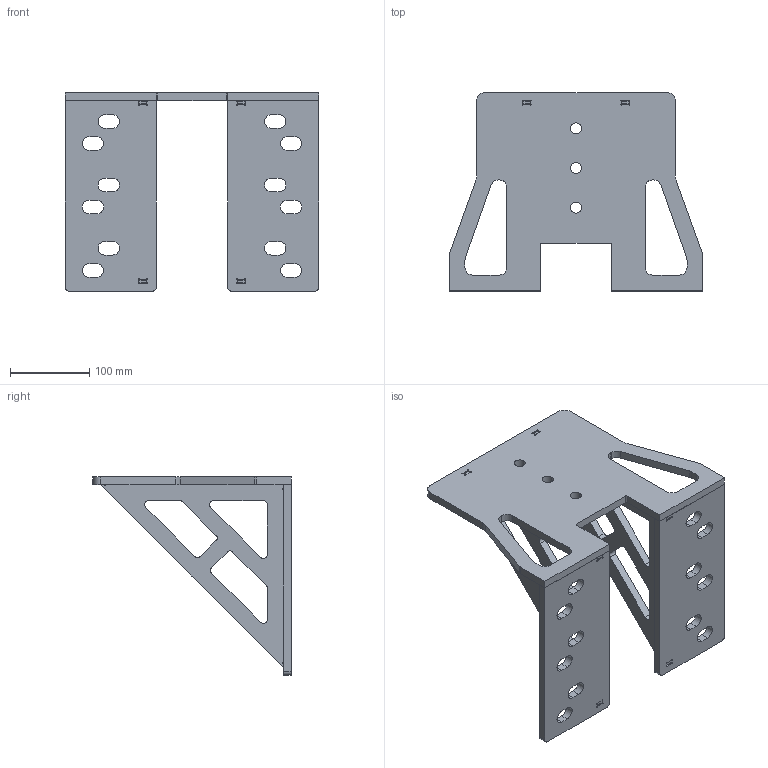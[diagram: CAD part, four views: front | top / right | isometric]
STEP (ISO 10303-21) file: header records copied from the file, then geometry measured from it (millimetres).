
FILE_DESCRIPTION (( 'STEP AP203' ), '1' );
FILE_NAME ('Baugruppe Klemmpuffer 180-240 2025.STEP', '2025-04-16T05:53:15', ( '' ), ( '' ), 'SwSTEP 2.0', 'SolidWorks 2024', '' );
FILE_SCHEMA (( 'CONFIG_CONTROL_DESIGN' ));
Length unit declared in the file: millimetre
Products named in the file (4): Baugruppe Klemmpuffer 180-240 2025; Frontplatte KTP-K-180-240; Versteifung KTP-K-180-300; Fußplatte KTP-K-180-240
Assembly tree (5 placements, depth 2):
  Baugruppe Klemmpuffer 180-240 2025
    Frontplatte KTP-K-180-240
    Fußplatte KTP-K-180-240  x2
    Versteifung KTP-K-180-300  x2
Bounding box: 320 x 250 x 250 mm (x, y, z)
Volume: 1383211.1 mm3; surface area: 352004.2 mm2
Topology: 5 solids, 5 shells, 316 faces, 918 edges, 612 vertices
Faces by surface type: cylinder 184, plane 132
Entity records: 7248 total; most frequent: DIRECTION 1234, CARTESIAN_POINT 1178, ORIENTED_EDGE 1164, EDGE_CURVE 582, AXIS2_PLACEMENT_3D 444, VERTEX_POINT 388, LINE 346, VECTOR 346
